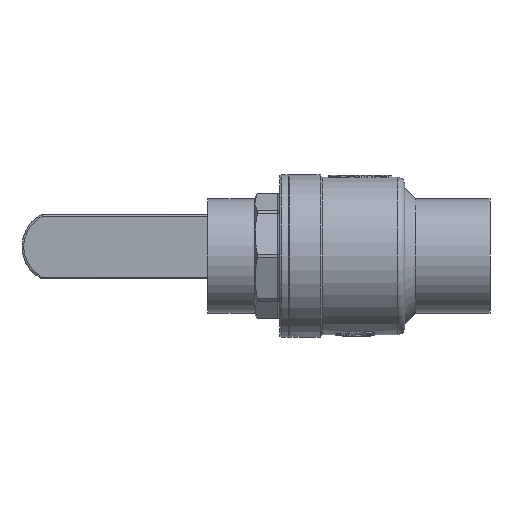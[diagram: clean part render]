
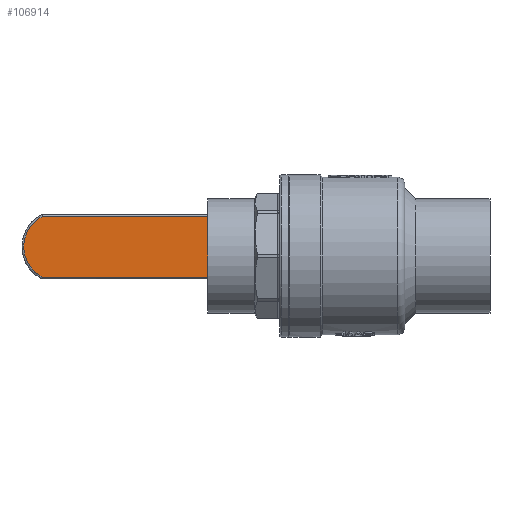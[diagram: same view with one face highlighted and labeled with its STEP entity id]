
A CAD part, front view. The second image highlights one B-rep face of the part: STEP entity #106914.
In plain terms, the highlighted planar face has unit normal (0, -1, 0).
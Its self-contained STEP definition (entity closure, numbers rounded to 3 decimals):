
#915 = PLANE ( 'NONE',  #19372 ) ;
#1684 = DIRECTION ( 'NONE',  ( 0., 1., 0. ) ) ;
#2073 = LINE ( 'NONE', #25213, #34515 ) ;
#10896 = ORIENTED_EDGE ( 'NONE', *, *, #91801, .T. ) ;
#11033 = VERTEX_POINT ( 'NONE', #76128 ) ;
#13796 = LINE ( 'NONE', #79155, #46211 ) ;
#19372 = AXIS2_PLACEMENT_3D ( 'NONE', #83224, #1684, #64754 ) ;
#20310 = EDGE_LOOP ( 'NONE', ( #87036, #83895, #49897, #10896 ) ) ;
#25213 = CARTESIAN_POINT ( 'NONE',  ( -123.134, -5., -17.45 ) ) ;
#25586 = DIRECTION ( 'NONE',  ( 0., 0., -1. ) ) ;
#34515 = VECTOR ( 'NONE', #25586, 1000. ) ;
#34673 = CARTESIAN_POINT ( 'NONE',  ( -10.036, -5., -16.45 ) ) ;
#44639 = VERTEX_POINT ( 'NONE', #48995 ) ;
#46211 = VECTOR ( 'NONE', #88208, 1000. ) ;
#48995 = CARTESIAN_POINT ( 'NONE',  ( -123.134, -5., 16.45 ) ) ;
#49897 = ORIENTED_EDGE ( 'NONE', *, *, #101311, .T. ) ;
#50476 = CARTESIAN_POINT ( 'NONE',  ( -124., -5., -16.45 ) ) ;
#59062 = DIRECTION ( 'NONE',  ( 0., 0., 1. ) ) ;
#59087 = AXIS2_PLACEMENT_3D ( 'NONE', #77165, #103531, #59062 ) ;
#64754 = DIRECTION ( 'NONE',  ( 0., 0., 1. ) ) ;
#72342 = EDGE_CURVE ( 'NONE', #44639, #11033, #2073, .T. ) ;
#76128 = CARTESIAN_POINT ( 'NONE',  ( -123.134, -5., -16.45 ) ) ;
#77165 = CARTESIAN_POINT ( 'NONE',  ( -18.5, -5., 0. ) ) ;
#78052 = DIRECTION ( 'NONE',  ( 1., 0., 0. ) ) ;
#79155 = CARTESIAN_POINT ( 'NONE',  ( -123.567, -5., 16.45 ) ) ;
#82626 = FACE_OUTER_BOUND ( 'NONE', #20310, .T. ) ;
#83224 = CARTESIAN_POINT ( 'NONE',  ( -124., -5., 16.45 ) ) ;
#83895 = ORIENTED_EDGE ( 'NONE', *, *, #86885, .T. ) ;
#86502 = CIRCLE ( 'NONE', #59087, 18.5 ) ;
#86885 = EDGE_CURVE ( 'NONE', #11033, #109478, #108128, .T. ) ;
#87036 = ORIENTED_EDGE ( 'NONE', *, *, #72342, .T. ) ;
#88208 = DIRECTION ( 'NONE',  ( -1., 0., 0. ) ) ;
#91801 = EDGE_CURVE ( 'NONE', #92225, #44639, #13796, .T. ) ;
#92225 = VERTEX_POINT ( 'NONE', #96717 ) ;
#92678 = VECTOR ( 'NONE', #78052, 1000. ) ;
#96717 = CARTESIAN_POINT ( 'NONE',  ( -10.036, -5., 16.45 ) ) ;
#101311 = EDGE_CURVE ( 'NONE', #109478, #92225, #86502, .T. ) ;
#103531 = DIRECTION ( 'NONE',  ( 0., -1., 0. ) ) ;
#106914 = ADVANCED_FACE ( 'NONE', ( #82626 ), #915, .F. ) ;
#108128 = LINE ( 'NONE', #50476, #92678 ) ;
#109478 = VERTEX_POINT ( 'NONE', #34673 ) ;
